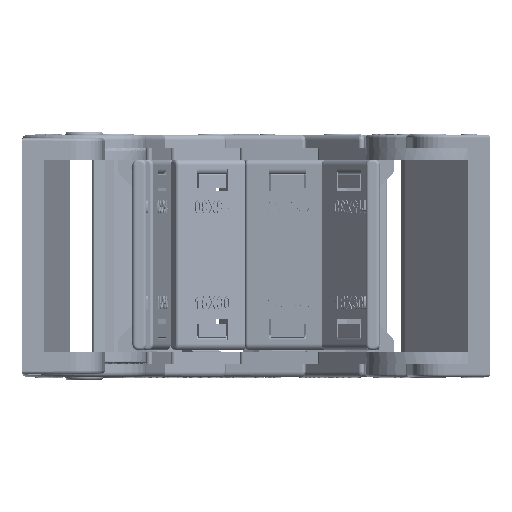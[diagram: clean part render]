
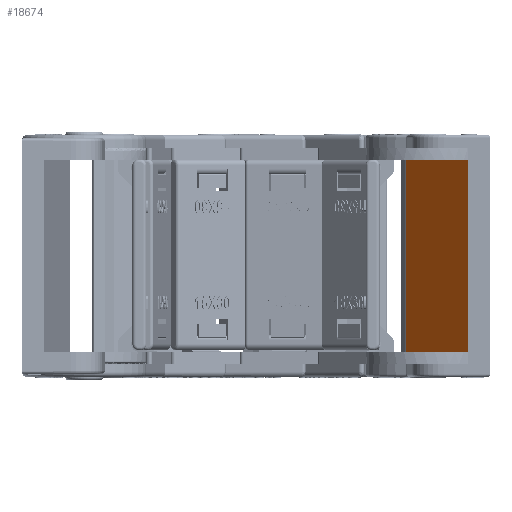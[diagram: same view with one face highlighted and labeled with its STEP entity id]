
A CAD part, left-side view. The second image highlights one B-rep face of the part: STEP entity #18674.
In plain terms, the highlighted planar face has unit normal (-0.667, 0.745, 0) as drawn and (0, 1, 0) by its records, which use the part's own axes.
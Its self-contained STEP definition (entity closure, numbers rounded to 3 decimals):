
#76 = CARTESIAN_POINT ( 'NONE',  ( -5.983, -7.95, -2. ) ) ;
#1997 = CARTESIAN_POINT ( 'NONE',  ( -25.644, -7.95, -2. ) ) ;
#3456 = PLANE ( 'NONE',  #21638 ) ;
#4954 = VECTOR ( 'NONE', #38256, 1000. ) ;
#5267 = LINE ( 'NONE', #14590, #6285 ) ;
#6285 = VECTOR ( 'NONE', #21229, 1000. ) ;
#6778 = DIRECTION ( 'NONE',  ( 1., 0., 0. ) ) ;
#6900 = EDGE_CURVE ( 'NONE', #16637, #19587, #37604, .T. ) ;
#7946 = VERTEX_POINT ( 'NONE', #26509 ) ;
#10239 = VECTOR ( 'NONE', #22924, 1000. ) ;
#10626 = ORIENTED_EDGE ( 'NONE', *, *, #6900, .T. ) ;
#11702 = CARTESIAN_POINT ( 'NONE',  ( -5.983, -7.95, -32. ) ) ;
#11849 = CARTESIAN_POINT ( 'NONE',  ( -5.983, -7.95, -32. ) ) ;
#12885 = CARTESIAN_POINT ( 'NONE',  ( -5.983, -7.95, -17. ) ) ;
#13740 = LINE ( 'NONE', #11849, #4954 ) ;
#14590 = CARTESIAN_POINT ( 'NONE',  ( -5.983, -7.95, -17. ) ) ;
#16263 = CARTESIAN_POINT ( 'NONE',  ( -5.983, -7.95, -2. ) ) ;
#16637 = VERTEX_POINT ( 'NONE', #1997 ) ;
#17433 = EDGE_CURVE ( 'NONE', #7946, #22765, #13740, .T. ) ;
#17699 = ORIENTED_EDGE ( 'NONE', *, *, #20131, .T. ) ;
#18674 = ADVANCED_FACE ( 'NONE', ( #31754 ), #3456, .F. ) ;
#19587 = VERTEX_POINT ( 'NONE', #76 ) ;
#20131 = EDGE_CURVE ( 'NONE', #7946, #16637, #31678, .T. ) ;
#21229 = DIRECTION ( 'NONE',  ( 0., 0., 1. ) ) ;
#21638 = AXIS2_PLACEMENT_3D ( 'NONE', #12885, #26567, #6778 ) ;
#21787 = CARTESIAN_POINT ( 'NONE',  ( -25.644, -7.95, -17. ) ) ;
#22765 = VERTEX_POINT ( 'NONE', #11702 ) ;
#22924 = DIRECTION ( 'NONE',  ( 1., 0., 0. ) ) ;
#23330 = ORIENTED_EDGE ( 'NONE', *, *, #17433, .F. ) ;
#26509 = CARTESIAN_POINT ( 'NONE',  ( -25.644, -7.95, -32. ) ) ;
#26567 = DIRECTION ( 'NONE',  ( 0., -1., 0. ) ) ;
#31175 = DIRECTION ( 'NONE',  ( 0., 0., 1. ) ) ;
#31678 = LINE ( 'NONE', #21787, #41500 ) ;
#31754 = FACE_OUTER_BOUND ( 'NONE', #42601, .T. ) ;
#36856 = ORIENTED_EDGE ( 'NONE', *, *, #41095, .F. ) ;
#37604 = LINE ( 'NONE', #16263, #10239 ) ;
#38256 = DIRECTION ( 'NONE',  ( 1., 0., 0. ) ) ;
#41095 = EDGE_CURVE ( 'NONE', #22765, #19587, #5267, .T. ) ;
#41500 = VECTOR ( 'NONE', #31175, 1000. ) ;
#42601 = EDGE_LOOP ( 'NONE', ( #10626, #36856, #23330, #17699 ) ) ;
